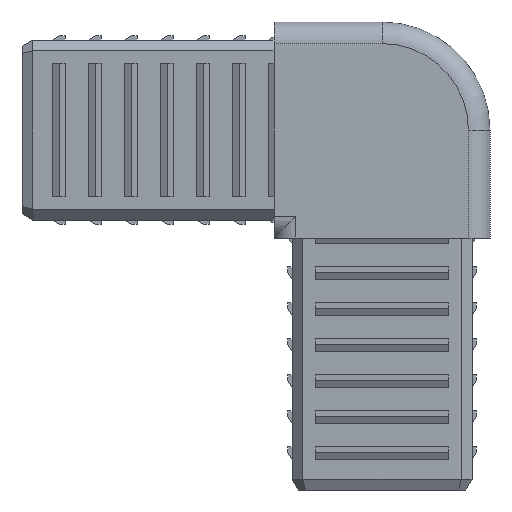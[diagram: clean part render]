
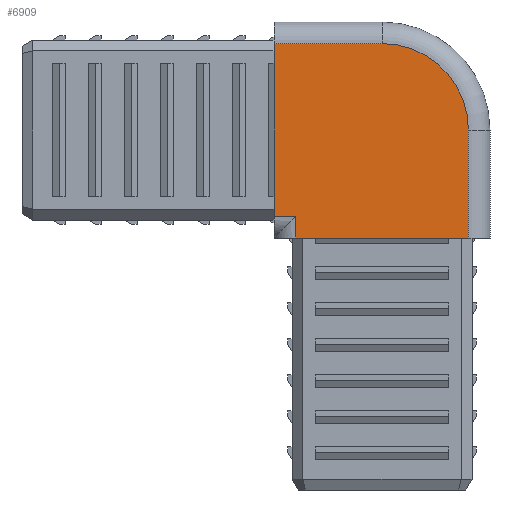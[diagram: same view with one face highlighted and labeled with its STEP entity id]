
A CAD part, left-side view. The second image highlights one B-rep face of the part: STEP entity #6909.
In plain terms, the highlighted planar face has unit normal (-1, 0, 0).
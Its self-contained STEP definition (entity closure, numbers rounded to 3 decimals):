
#9 = EDGE_CURVE ( 'NONE', #360, #2769, #8408, .T. ) ;
#110 = ORIENTED_EDGE ( 'NONE', *, *, #3343, .T. ) ;
#119 = AXIS2_PLACEMENT_3D ( 'NONE', #1126, #1047, #5178 ) ;
#173 = CARTESIAN_POINT ( 'NONE',  ( -15., -12., -15. ) ) ;
#259 = VECTOR ( 'NONE', #3397, 1000. ) ;
#308 = LINE ( 'NONE', #10001, #5455 ) ;
#312 = CARTESIAN_POINT ( 'NONE',  ( -15., -12., 15. ) ) ;
#360 = VERTEX_POINT ( 'NONE', #791 ) ;
#791 = CARTESIAN_POINT ( 'NONE',  ( -15., 12., -12. ) ) ;
#831 = VECTOR ( 'NONE', #6707, 1000. ) ;
#1002 = CARTESIAN_POINT ( 'NONE',  ( -15., 12., -15. ) ) ;
#1047 = DIRECTION ( 'NONE',  ( 1., 0., 0. ) ) ;
#1126 = CARTESIAN_POINT ( 'NONE',  ( -15., -15., 15. ) ) ;
#1262 = VERTEX_POINT ( 'NONE', #2993 ) ;
#1373 = EDGE_LOOP ( 'NONE', ( #110, #7182, #9644, #3822, #2802, #8313, #6993 ) ) ;
#1421 = FACE_OUTER_BOUND ( 'NONE', #1373, .T. ) ;
#1522 = CARTESIAN_POINT ( 'NONE',  ( -15., -15., -15. ) ) ;
#1691 = CARTESIAN_POINT ( 'NONE',  ( -15., 0., 12. ) ) ;
#1877 = DIRECTION ( 'NONE',  ( 0., 0., -1. ) ) ;
#2572 = CARTESIAN_POINT ( 'NONE',  ( -15., -15., 12. ) ) ;
#2605 = PLANE ( 'NONE',  #119 ) ;
#2707 = EDGE_CURVE ( 'NONE', #3731, #3983, #5553, .T. ) ;
#2769 = VERTEX_POINT ( 'NONE', #4921 ) ;
#2802 = ORIENTED_EDGE ( 'NONE', *, *, #9858, .T. ) ;
#2934 = CARTESIAN_POINT ( 'NONE',  ( -15., 12., -12. ) ) ;
#2993 = CARTESIAN_POINT ( 'NONE',  ( -15., 15., 12. ) ) ;
#3098 = LINE ( 'NONE', #2934, #6638 ) ;
#3343 = EDGE_CURVE ( 'NONE', #1262, #2769, #308, .T. ) ;
#3397 = DIRECTION ( 'NONE',  ( 0., 1., 0. ) ) ;
#3473 = AXIS2_PLACEMENT_3D ( 'NONE', #8947, #7322, #6578 ) ;
#3602 = LINE ( 'NONE', #2572, #259 ) ;
#3716 = EDGE_CURVE ( 'NONE', #7901, #7816, #4016, .T. ) ;
#3731 = VERTEX_POINT ( 'NONE', #6436 ) ;
#3822 = ORIENTED_EDGE ( 'NONE', *, *, #3716, .T. ) ;
#3983 = VERTEX_POINT ( 'NONE', #1691 ) ;
#4016 = LINE ( 'NONE', #1522, #7074 ) ;
#4921 = CARTESIAN_POINT ( 'NONE',  ( -15., 15., -12. ) ) ;
#5178 = DIRECTION ( 'NONE',  ( 0., 0., -1. ) ) ;
#5204 = LINE ( 'NONE', #312, #831 ) ;
#5455 = VECTOR ( 'NONE', #1877, 1000. ) ;
#5553 = CIRCLE ( 'NONE', #3473, 12. ) ;
#6436 = CARTESIAN_POINT ( 'NONE',  ( -15., -12., 0. ) ) ;
#6578 = DIRECTION ( 'NONE',  ( 0., 0., -1. ) ) ;
#6638 = VECTOR ( 'NONE', #8600, 1000. ) ;
#6707 = DIRECTION ( 'NONE',  ( 0., 0., 1. ) ) ;
#6868 = EDGE_CURVE ( 'NONE', #3983, #1262, #3602, .T. ) ;
#6909 = ADVANCED_FACE ( 'NONE', ( #1421 ), #2605, .F. ) ;
#6993 = ORIENTED_EDGE ( 'NONE', *, *, #6868, .T. ) ;
#7074 = VECTOR ( 'NONE', #10464, 1000. ) ;
#7182 = ORIENTED_EDGE ( 'NONE', *, *, #9, .F. ) ;
#7322 = DIRECTION ( 'NONE',  ( -1., 0., 0. ) ) ;
#7667 = EDGE_CURVE ( 'NONE', #7901, #360, #3098, .T. ) ;
#7816 = VERTEX_POINT ( 'NONE', #173 ) ;
#7901 = VERTEX_POINT ( 'NONE', #1002 ) ;
#8023 = VECTOR ( 'NONE', #9438, 1000. ) ;
#8313 = ORIENTED_EDGE ( 'NONE', *, *, #2707, .T. ) ;
#8408 = LINE ( 'NONE', #10186, #8023 ) ;
#8600 = DIRECTION ( 'NONE',  ( 0., 0., 1. ) ) ;
#8947 = CARTESIAN_POINT ( 'NONE',  ( -15., 0., 0. ) ) ;
#9438 = DIRECTION ( 'NONE',  ( 0., 1., 0. ) ) ;
#9644 = ORIENTED_EDGE ( 'NONE', *, *, #7667, .F. ) ;
#9858 = EDGE_CURVE ( 'NONE', #7816, #3731, #5204, .T. ) ;
#10001 = CARTESIAN_POINT ( 'NONE',  ( -15., 15., 15. ) ) ;
#10186 = CARTESIAN_POINT ( 'NONE',  ( -15., 12., -12. ) ) ;
#10464 = DIRECTION ( 'NONE',  ( 0., -1., 0. ) ) ;
